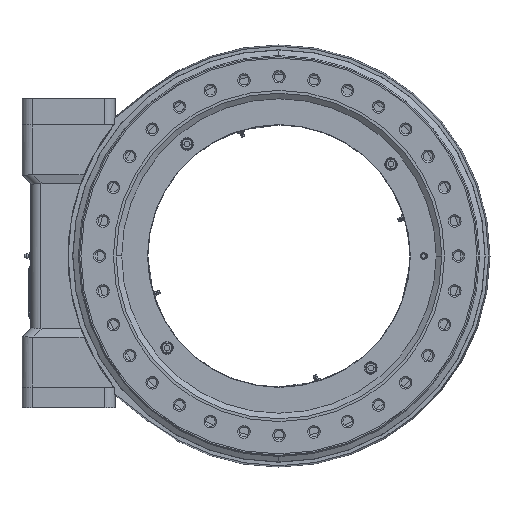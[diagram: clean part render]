
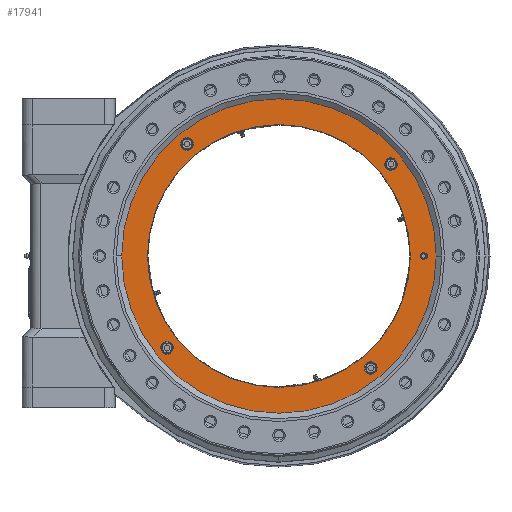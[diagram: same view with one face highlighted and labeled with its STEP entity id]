
A CAD part, front view. The second image highlights one B-rep face of the part: STEP entity #17941.
In plain terms, the highlighted planar face has unit normal (0, -1, 0).
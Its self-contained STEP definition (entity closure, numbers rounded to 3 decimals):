
#583 = EDGE_LOOP ( 'NONE', ( #14324, #14326 ) ) ;
#632 = EDGE_LOOP ( 'NONE', ( #14320, #14322 ) ) ;
#9342 = CARTESIAN_POINT ( 'NONE',  ( 238., -16., 0. ) ) ;
#9358 = CARTESIAN_POINT ( 'NONE',  ( 124.223, -16., -162.332 ) ) ;
#9359 = CARTESIAN_POINT ( 'NONE',  ( 190.5, -16., 0. ) ) ;
#9365 = CARTESIAN_POINT ( 'NONE',  ( 215., -16., 0. ) ) ;
#9438 = CARTESIAN_POINT ( 'NONE',  ( -190.5, -16., 0. ) ) ;
#13641 = AXIS2_PLACEMENT_3D ( 'NONE', #18373, #18375, #18377 ) ;
#14305 = ORIENTED_EDGE ( 'NONE', *, *, #18215, .T. ) ;
#14307 = ORIENTED_EDGE ( 'NONE', *, *, #18323, .T. ) ;
#14308 = ORIENTED_EDGE ( 'NONE', *, *, #18220, .F. ) ;
#14310 = ORIENTED_EDGE ( 'NONE', *, *, #18307, .F. ) ;
#14312 = ORIENTED_EDGE ( 'NONE', *, *, #18297, .T. ) ;
#14314 = ORIENTED_EDGE ( 'NONE', *, *, #18224, .T. ) ;
#14316 = ORIENTED_EDGE ( 'NONE', *, *, #18286, .T. ) ;
#14317 = ORIENTED_EDGE ( 'NONE', *, *, #18229, .T. ) ;
#14318 = ORIENTED_EDGE ( 'NONE', *, *, #18209, .F. ) ;
#14319 = ORIENTED_EDGE ( 'NONE', *, *, #18207, .F. ) ;
#14320 = ORIENTED_EDGE ( 'NONE', *, *, #18268, .T. ) ;
#14322 = ORIENTED_EDGE ( 'NONE', *, *, #18239, .T. ) ;
#14324 = ORIENTED_EDGE ( 'NONE', *, *, #18256, .T. ) ;
#14326 = ORIENTED_EDGE ( 'NONE', *, *, #18247, .T. ) ;
#15280 = AXIS2_PLACEMENT_3D ( 'NONE', #23956, #23957, #23958 ) ;
#15293 = CIRCLE ( 'NONE', #15280, 238. ) ;
#15297 = CIRCLE ( 'NONE', #15302, 238. ) ;
#15302 = AXIS2_PLACEMENT_3D ( 'NONE', #23960, #23961, #23962 ) ;
#15308 = CIRCLE ( 'NONE', #15313, 5. ) ;
#15310 = CIRCLE ( 'NONE', #15319, 190.5 ) ;
#15313 = AXIS2_PLACEMENT_3D ( 'NONE', #23969, #23970, #23971 ) ;
#15319 = AXIS2_PLACEMENT_3D ( 'NONE', #23974, #23975, #23976 ) ;
#15321 = CIRCLE ( 'NONE', #15328, 9. ) ;
#15326 = CIRCLE ( 'NONE', #15336, 9. ) ;
#15328 = AXIS2_PLACEMENT_3D ( 'NONE', #23981, #23982, #23983 ) ;
#15336 = AXIS2_PLACEMENT_3D ( 'NONE', #24023, #24024, #24025 ) ;
#15341 = CIRCLE ( 'NONE', #15352, 9. ) ;
#15352 = AXIS2_PLACEMENT_3D ( 'NONE', #24087, #24088, #24089 ) ;
#15354 = CIRCLE ( 'NONE', #15367, 9. ) ;
#15367 = AXIS2_PLACEMENT_3D ( 'NONE', #24098, #24099, #24100 ) ;
#15375 = CIRCLE ( 'NONE', #15380, 9. ) ;
#15380 = AXIS2_PLACEMENT_3D ( 'NONE', #24110, #24111, #24112 ) ;
#15395 = CIRCLE ( 'NONE', #15401, 9. ) ;
#15401 = AXIS2_PLACEMENT_3D ( 'NONE', #24157, #24158, #24159 ) ;
#15417 = CIRCLE ( 'NONE', #15423, 9. ) ;
#15423 = AXIS2_PLACEMENT_3D ( 'NONE', #24215, #24216, #24217 ) ;
#15438 = CIRCLE ( 'NONE', #15443, 9. ) ;
#15443 = AXIS2_PLACEMENT_3D ( 'NONE', #24236, #24237, #24238 ) ;
#15453 = CIRCLE ( 'NONE', #15458, 190.5 ) ;
#15458 = AXIS2_PLACEMENT_3D ( 'NONE', #24274, #24275, #24276 ) ;
#15469 = CIRCLE ( 'NONE', #15477, 5. ) ;
#15477 = AXIS2_PLACEMENT_3D ( 'NONE', #24332, #24333, #24334 ) ;
#17073 = VERTEX_POINT ( 'NONE', #9342 ) ;
#17089 = VERTEX_POINT ( 'NONE', #9358 ) ;
#17090 = VERTEX_POINT ( 'NONE', #9359 ) ;
#17096 = VERTEX_POINT ( 'NONE', #9365 ) ;
#17169 = VERTEX_POINT ( 'NONE', #9438 ) ;
#17941 = ADVANCED_FACE ( 'NONE', ( #18336, #18340, #18343, #18347, #18334, #18338, #18341 ), #18345, .T. ) ;
#18207 = EDGE_CURVE ( 'NONE', #17073, #20565, #15293, .T. ) ;
#18209 = EDGE_CURVE ( 'NONE', #20565, #17073, #15297, .T. ) ;
#18215 = EDGE_CURVE ( 'NONE', #19691, #17096, #15308, .T. ) ;
#18220 = EDGE_CURVE ( 'NONE', #17090, #17169, #15310, .T. ) ;
#18224 = EDGE_CURVE ( 'NONE', #19617, #19724, #15321, .T. ) ;
#18229 = EDGE_CURVE ( 'NONE', #19896, #19598, #15326, .T. ) ;
#18239 = EDGE_CURVE ( 'NONE', #19530, #19675, #15341, .T. ) ;
#18247 = EDGE_CURVE ( 'NONE', #17089, #19939, #15354, .T. ) ;
#18256 = EDGE_CURVE ( 'NONE', #19939, #17089, #15375, .T. ) ;
#18268 = EDGE_CURVE ( 'NONE', #19675, #19530, #15395, .T. ) ;
#18286 = EDGE_CURVE ( 'NONE', #19598, #19896, #15417, .T. ) ;
#18297 = EDGE_CURVE ( 'NONE', #19724, #19617, #15438, .T. ) ;
#18307 = EDGE_CURVE ( 'NONE', #17169, #17090, #15453, .T. ) ;
#18323 = EDGE_CURVE ( 'NONE', #17096, #19691, #15469, .T. ) ;
#18334 = FACE_OUTER_BOUND ( 'NONE', #25014, .T. ) ;
#18336 = FACE_BOUND ( 'NONE', #25737, .T. ) ;
#18338 = FACE_BOUND ( 'NONE', #632, .T. ) ;
#18340 = FACE_BOUND ( 'NONE', #25003, .T. ) ;
#18341 = FACE_BOUND ( 'NONE', #583, .T. ) ;
#18343 = FACE_BOUND ( 'NONE', #25013, .T. ) ;
#18345 = PLANE ( 'NONE',  #13641 ) ;
#18347 = FACE_BOUND ( 'NONE', #25012, .T. ) ;
#18373 = CARTESIAN_POINT ( 'NONE',  ( 0., -16., -238. ) ) ;
#18375 = DIRECTION ( 'NONE',  ( 0., -1., 0. ) ) ;
#18377 = DIRECTION ( 'NONE',  ( 1., 0., 0. ) ) ;
#19530 = VERTEX_POINT ( 'NONE', #34910 ) ;
#19598 = VERTEX_POINT ( 'NONE', #34978 ) ;
#19617 = VERTEX_POINT ( 'NONE', #34997 ) ;
#19675 = VERTEX_POINT ( 'NONE', #35055 ) ;
#19691 = VERTEX_POINT ( 'NONE', #35071 ) ;
#19724 = VERTEX_POINT ( 'NONE', #35104 ) ;
#19896 = VERTEX_POINT ( 'NONE', #35276 ) ;
#19939 = VERTEX_POINT ( 'NONE', #35319 ) ;
#20565 = VERTEX_POINT ( 'NONE', #35945 ) ;
#23956 = CARTESIAN_POINT ( 'NONE',  ( 0., -16., 0. ) ) ;
#23957 = DIRECTION ( 'NONE',  ( 0., 1., 0. ) ) ;
#23958 = DIRECTION ( 'NONE',  ( -1., 0., 0. ) ) ;
#23960 = CARTESIAN_POINT ( 'NONE',  ( 0., -16., 0. ) ) ;
#23961 = DIRECTION ( 'NONE',  ( 0., 1., 0. ) ) ;
#23962 = DIRECTION ( 'NONE',  ( -1., 0., 0. ) ) ;
#23969 = CARTESIAN_POINT ( 'NONE',  ( 210., -16., 0. ) ) ;
#23970 = DIRECTION ( 'NONE',  ( 0., 1., 0. ) ) ;
#23971 = DIRECTION ( 'NONE',  ( -1., 0., 0. ) ) ;
#23974 = CARTESIAN_POINT ( 'NONE',  ( 0., -16., 0. ) ) ;
#23975 = DIRECTION ( 'NONE',  ( 0., -1., 0. ) ) ;
#23976 = DIRECTION ( 'NONE',  ( 1., 0., 0. ) ) ;
#23981 = CARTESIAN_POINT ( 'NONE',  ( 162.332, -16., 133.223 ) ) ;
#23982 = DIRECTION ( 'NONE',  ( 0., 1., 0. ) ) ;
#23983 = DIRECTION ( 'NONE',  ( 1., 0., 0. ) ) ;
#24023 = CARTESIAN_POINT ( 'NONE',  ( -162.332, -16., -133.223 ) ) ;
#24024 = DIRECTION ( 'NONE',  ( 0., 1., 0. ) ) ;
#24025 = DIRECTION ( 'NONE',  ( 1., 0., 0. ) ) ;
#24087 = CARTESIAN_POINT ( 'NONE',  ( -133.223, -16., 162.332 ) ) ;
#24088 = DIRECTION ( 'NONE',  ( 0., 1., 0. ) ) ;
#24089 = DIRECTION ( 'NONE',  ( 1., 0., 0. ) ) ;
#24098 = CARTESIAN_POINT ( 'NONE',  ( 133.223, -16., -162.332 ) ) ;
#24099 = DIRECTION ( 'NONE',  ( 0., 1., 0. ) ) ;
#24100 = DIRECTION ( 'NONE',  ( 1., 0., 0. ) ) ;
#24110 = CARTESIAN_POINT ( 'NONE',  ( 133.223, -16., -162.332 ) ) ;
#24111 = DIRECTION ( 'NONE',  ( 0., 1., 0. ) ) ;
#24112 = DIRECTION ( 'NONE',  ( 1., 0., 0. ) ) ;
#24157 = CARTESIAN_POINT ( 'NONE',  ( -133.223, -16., 162.332 ) ) ;
#24158 = DIRECTION ( 'NONE',  ( 0., 1., 0. ) ) ;
#24159 = DIRECTION ( 'NONE',  ( 1., 0., 0. ) ) ;
#24215 = CARTESIAN_POINT ( 'NONE',  ( -162.332, -16., -133.223 ) ) ;
#24216 = DIRECTION ( 'NONE',  ( 0., 1., 0. ) ) ;
#24217 = DIRECTION ( 'NONE',  ( 1., 0., 0. ) ) ;
#24236 = CARTESIAN_POINT ( 'NONE',  ( 162.332, -16., 133.223 ) ) ;
#24237 = DIRECTION ( 'NONE',  ( 0., 1., 0. ) ) ;
#24238 = DIRECTION ( 'NONE',  ( 1., 0., 0. ) ) ;
#24274 = CARTESIAN_POINT ( 'NONE',  ( 0., -16., 0. ) ) ;
#24275 = DIRECTION ( 'NONE',  ( 0., -1., 0. ) ) ;
#24276 = DIRECTION ( 'NONE',  ( 1., 0., 0. ) ) ;
#24332 = CARTESIAN_POINT ( 'NONE',  ( 210., -16., 0. ) ) ;
#24333 = DIRECTION ( 'NONE',  ( 0., 1., 0. ) ) ;
#24334 = DIRECTION ( 'NONE',  ( -1., 0., 0. ) ) ;
#25003 = EDGE_LOOP ( 'NONE', ( #14308, #14310 ) ) ;
#25012 = EDGE_LOOP ( 'NONE', ( #14316, #14317 ) ) ;
#25013 = EDGE_LOOP ( 'NONE', ( #14312, #14314 ) ) ;
#25014 = EDGE_LOOP ( 'NONE', ( #14318, #14319 ) ) ;
#25737 = EDGE_LOOP ( 'NONE', ( #14305, #14307 ) ) ;
#34910 = CARTESIAN_POINT ( 'NONE',  ( -142.223, -16., 162.332 ) ) ;
#34978 = CARTESIAN_POINT ( 'NONE',  ( -153.332, -16., -133.223 ) ) ;
#34997 = CARTESIAN_POINT ( 'NONE',  ( 153.332, -16., 133.223 ) ) ;
#35055 = CARTESIAN_POINT ( 'NONE',  ( -124.223, -16., 162.332 ) ) ;
#35071 = CARTESIAN_POINT ( 'NONE',  ( 205., -16., 0. ) ) ;
#35104 = CARTESIAN_POINT ( 'NONE',  ( 171.332, -16., 133.223 ) ) ;
#35276 = CARTESIAN_POINT ( 'NONE',  ( -171.332, -16., -133.223 ) ) ;
#35319 = CARTESIAN_POINT ( 'NONE',  ( 142.223, -16., -162.332 ) ) ;
#35945 = CARTESIAN_POINT ( 'NONE',  ( -238., -16., 0. ) ) ;
